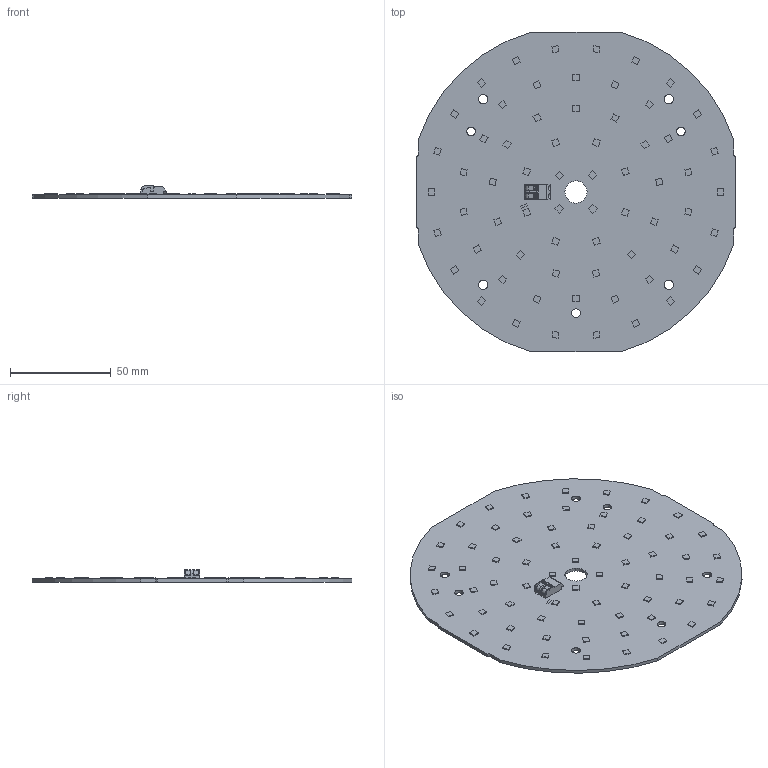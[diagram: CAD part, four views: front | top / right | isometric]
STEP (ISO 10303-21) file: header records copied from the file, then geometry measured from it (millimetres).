
FILE_DESCRIPTION((''),'2;1');
FILE_NAME('16208841_CLE-G4-160-ADV','2019-06-17T09:42:48',('bernhard.fink'),(''),'CREO PARAMETRIC BY PTC INC, 2017380','CREO PARAMETRIC BY PTC INC, 2017380','');
FILE_SCHEMA(('AUTOMOTIVE_DESIGN { 1 0 10303 214 1 1 1 1 }'));
Length unit declared in the file: millimetre
Products named in the file (1): 16208841_CLE-G4-160-ADV
Bounding box: 158.5 x 158.5 x 6.15 mm (x, y, z)
Volume: 34709.3 mm3; surface area: 43368.4 mm2
Topology: 1 solids, 1 shells, 550 faces, 1436 edges, 958 vertices
Faces by surface type: plane 467, cylinder 81, sphere 2
Entity records: 25453 total; most frequent: CARTESIAN_POINT 3075, ORIENTED_EDGE 2872, DIRECTION 2674, PRESENTATION_STYLE_ASSIGNMENT 1944, STYLED_ITEM 1437, CURVE_STYLE 1436, EDGE_CURVE 1436, VECTOR 1240
